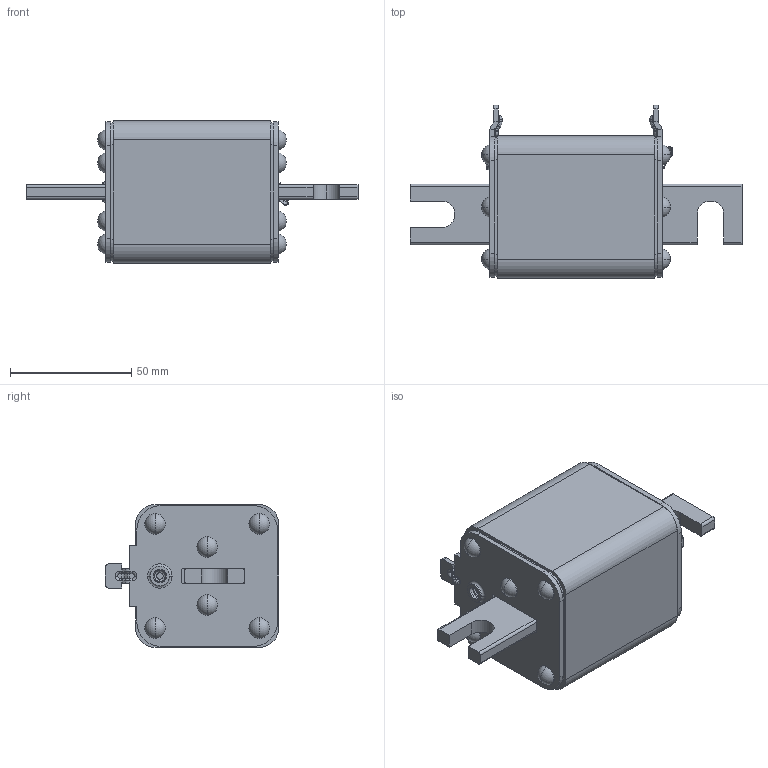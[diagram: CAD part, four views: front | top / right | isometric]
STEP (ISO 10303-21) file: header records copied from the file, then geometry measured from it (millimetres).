
FILE_DESCRIPTION (( 'STEP AP214' ), '1' );
FILE_NAME ('ﾏﾍﾁ7-690_400-2-400ﾀ-ﾓﾕﾋ3-ﾊﾝﾀﾇ.STEP', '2023-04-07T08:29:40', ( '' ), ( '' ), 'SwSTEP 2.0', 'SolidWorks 2018', '' );
FILE_SCHEMA (( 'AUTOMOTIVE_DESIGN' ));
Length unit declared in the file: millimetre
Products named in the file (1): ﾏﾍﾁ7-690_400-2-400ﾀ-ﾓﾕﾋ3-ﾊﾝﾀﾇ
Bounding box: 137 x 71.5 x 59 mm (x, y, z)
Volume: 251411.7 mm3; surface area: 30294.4 mm2
Topology: 1 solids, 14 shells, 528 faces, 1252 edges, 772 vertices
Faces by surface type: cylinder 221, plane 161, torus 90, sphere 28, cone 20, bspline 8
Entity records: 21329 total; most frequent: DIRECTION 2936, CARTESIAN_POINT 2788, ORIENTED_EDGE 2504, EDGE_CURVE 1252, AXIS2_PLACEMENT_3D 1191, VERTEX_POINT 772, CIRCLE 670, EDGE_LOOP 580
